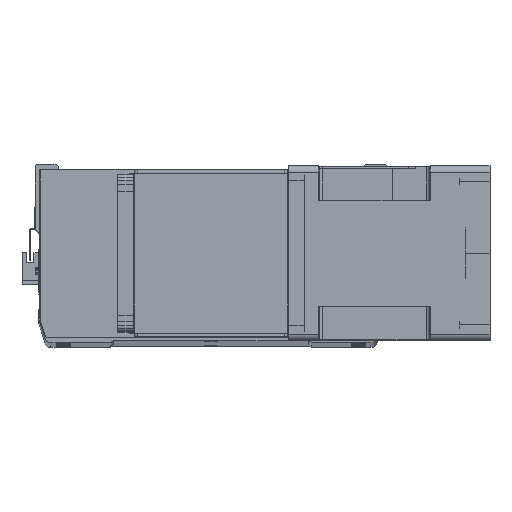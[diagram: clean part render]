
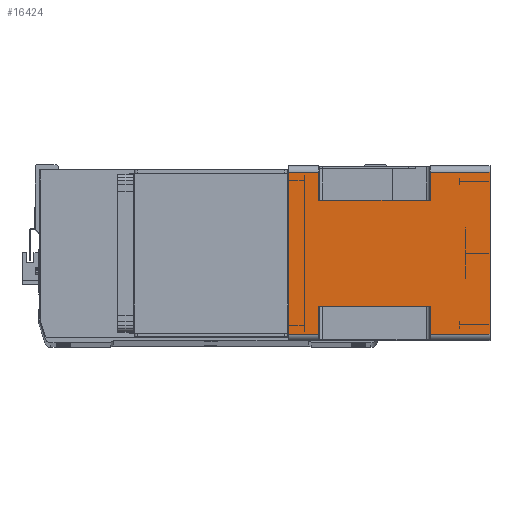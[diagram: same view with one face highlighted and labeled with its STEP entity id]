
A CAD part, top view. The second image highlights one B-rep face of the part: STEP entity #16424.
In plain terms, the highlighted planar face has unit normal (0, 0, 1) as drawn and (1, 0, 0) by its records, which use the part's own axes.
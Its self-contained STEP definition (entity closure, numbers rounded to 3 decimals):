
#415 = EDGE_CURVE ( 'NONE', #19082, #12880, #497, .T. ) ;
#444 = VECTOR ( 'NONE', #23070, 1000. ) ;
#497 = LINE ( 'NONE', #3743, #5690 ) ;
#509 = CARTESIAN_POINT ( 'NONE',  ( 71., 43., -115.5 ) ) ;
#592 = CARTESIAN_POINT ( 'NONE',  ( 71., -43., -24.5 ) ) ;
#616 = CARTESIAN_POINT ( 'NONE',  ( 71., -66., -24.5 ) ) ;
#742 = CARTESIAN_POINT ( 'NONE',  ( 71., -43., -164. ) ) ;
#1355 = VERTEX_POINT ( 'NONE', #509 ) ;
#1360 = CARTESIAN_POINT ( 'NONE',  ( 71., 66., -164. ) ) ;
#1418 = CARTESIAN_POINT ( 'NONE',  ( 71., -66., -164. ) ) ;
#1644 = DIRECTION ( 'NONE',  ( 0., 0., 1. ) ) ;
#1816 = VECTOR ( 'NONE', #29010, 1000. ) ;
#2215 = CARTESIAN_POINT ( 'NONE',  ( 71., 43., -115.5 ) ) ;
#2572 = DIRECTION ( 'NONE',  ( 0., 1., 0. ) ) ;
#2681 = LINE ( 'NONE', #24039, #8246 ) ;
#2930 = CARTESIAN_POINT ( 'NONE',  ( 71., 66., -115.5 ) ) ;
#3112 = VECTOR ( 'NONE', #28616, 1000. ) ;
#3743 = CARTESIAN_POINT ( 'NONE',  ( 71., 66., -164. ) ) ;
#3892 = DIRECTION ( 'NONE',  ( 0., 0., 1. ) ) ;
#3969 = ORIENTED_EDGE ( 'NONE', *, *, #28977, .F. ) ;
#4118 = CARTESIAN_POINT ( 'NONE',  ( 71., 43., -164. ) ) ;
#4167 = EDGE_CURVE ( 'NONE', #26629, #19082, #17726, .T. ) ;
#5535 = VECTOR ( 'NONE', #22823, 1000. ) ;
#5690 = VECTOR ( 'NONE', #16187, 1000. ) ;
#5703 = DIRECTION ( 'NONE',  ( 0., 1., 0. ) ) ;
#5929 = DIRECTION ( 'NONE',  ( 1., 0., 0. ) ) ;
#6008 = CARTESIAN_POINT ( 'NONE',  ( 71., 66., -24.5 ) ) ;
#6786 = CARTESIAN_POINT ( 'NONE',  ( 71., 66., -164. ) ) ;
#7448 = CARTESIAN_POINT ( 'NONE',  ( 71., 43., -24.5 ) ) ;
#8246 = VECTOR ( 'NONE', #3892, 1000. ) ;
#8362 = PLANE ( 'NONE',  #19748 ) ;
#9282 = ORIENTED_EDGE ( 'NONE', *, *, #13154, .T. ) ;
#9327 = DIRECTION ( 'NONE',  ( 0., 0., 1. ) ) ;
#9582 = EDGE_CURVE ( 'NONE', #26629, #1355, #14222, .T. ) ;
#9658 = EDGE_LOOP ( 'NONE', ( #3969, #21498, #19849, #12683, #25640, #9282, #29809, #33023, #23076, #21578, #14503, #28372 ) ) ;
#9839 = VECTOR ( 'NONE', #16418, 1000. ) ;
#10467 = EDGE_CURVE ( 'NONE', #12982, #32243, #31715, .T. ) ;
#10791 = CARTESIAN_POINT ( 'NONE',  ( 71., -66., -164. ) ) ;
#11152 = CARTESIAN_POINT ( 'NONE',  ( 71., -43., -24.5 ) ) ;
#11682 = CARTESIAN_POINT ( 'NONE',  ( 71., -66., -164. ) ) ;
#12546 = CARTESIAN_POINT ( 'NONE',  ( 71., -66., 0. ) ) ;
#12683 = ORIENTED_EDGE ( 'NONE', *, *, #23315, .T. ) ;
#12880 = VERTEX_POINT ( 'NONE', #26230 ) ;
#12982 = VERTEX_POINT ( 'NONE', #1360 ) ;
#13154 = EDGE_CURVE ( 'NONE', #32243, #1355, #14248, .T. ) ;
#13656 = CARTESIAN_POINT ( 'NONE',  ( 71., -66., -115.5 ) ) ;
#14222 = LINE ( 'NONE', #4118, #27408 ) ;
#14248 = LINE ( 'NONE', #2215, #5535 ) ;
#14503 = ORIENTED_EDGE ( 'NONE', *, *, #25868, .F. ) ;
#15280 = CARTESIAN_POINT ( 'NONE',  ( 71., -66., -164. ) ) ;
#15623 = LINE ( 'NONE', #12546, #21615 ) ;
#16187 = DIRECTION ( 'NONE',  ( 0., 0., 1. ) ) ;
#16418 = DIRECTION ( 'NONE',  ( 0., 1., 0. ) ) ;
#16424 = ADVANCED_FACE ( 'NONE', ( #25034 ), #8362, .T. ) ;
#16661 = VERTEX_POINT ( 'NONE', #11682 ) ;
#17726 = LINE ( 'NONE', #32768, #23699 ) ;
#18229 = LINE ( 'NONE', #11152, #9839 ) ;
#18529 = VECTOR ( 'NONE', #1644, 1000. ) ;
#19010 = CARTESIAN_POINT ( 'NONE',  ( 71., -43., -115.5 ) ) ;
#19082 = VERTEX_POINT ( 'NONE', #6008 ) ;
#19693 = EDGE_CURVE ( 'NONE', #31232, #28603, #18229, .T. ) ;
#19748 = AXIS2_PLACEMENT_3D ( 'NONE', #10791, #5929, #5703 ) ;
#19849 = ORIENTED_EDGE ( 'NONE', *, *, #24350, .F. ) ;
#20183 = VERTEX_POINT ( 'NONE', #19010 ) ;
#20551 = VECTOR ( 'NONE', #9327, 1000. ) ;
#20781 = LINE ( 'NONE', #15280, #444 ) ;
#20989 = CARTESIAN_POINT ( 'NONE',  ( 71., -66., 0. ) ) ;
#21498 = ORIENTED_EDGE ( 'NONE', *, *, #32771, .T. ) ;
#21578 = ORIENTED_EDGE ( 'NONE', *, *, #30358, .F. ) ;
#21615 = VECTOR ( 'NONE', #2572, 1000. ) ;
#21936 = DIRECTION ( 'NONE',  ( 0., 0., -1. ) ) ;
#22312 = DIRECTION ( 'NONE',  ( 0., 1., 0. ) ) ;
#22823 = DIRECTION ( 'NONE',  ( 0., -1., 0. ) ) ;
#22919 = LINE ( 'NONE', #1418, #18529 ) ;
#23070 = DIRECTION ( 'NONE',  ( 0., 1., 0. ) ) ;
#23076 = ORIENTED_EDGE ( 'NONE', *, *, #415, .T. ) ;
#23315 = EDGE_CURVE ( 'NONE', #16661, #12982, #20781, .T. ) ;
#23699 = VECTOR ( 'NONE', #22312, 1000. ) ;
#24039 = CARTESIAN_POINT ( 'NONE',  ( 71., -66., -164. ) ) ;
#24350 = EDGE_CURVE ( 'NONE', #16661, #29076, #2681, .T. ) ;
#24919 = LINE ( 'NONE', #26461, #1816 ) ;
#25034 = FACE_OUTER_BOUND ( 'NONE', #9658, .T. ) ;
#25640 = ORIENTED_EDGE ( 'NONE', *, *, #10467, .T. ) ;
#25868 = EDGE_CURVE ( 'NONE', #31232, #26358, #22919, .T. ) ;
#26230 = CARTESIAN_POINT ( 'NONE',  ( 71., 66., 0. ) ) ;
#26358 = VERTEX_POINT ( 'NONE', #20989 ) ;
#26461 = CARTESIAN_POINT ( 'NONE',  ( 71., -66., -115.5 ) ) ;
#26629 = VERTEX_POINT ( 'NONE', #7448 ) ;
#27408 = VECTOR ( 'NONE', #21936, 1000. ) ;
#28372 = ORIENTED_EDGE ( 'NONE', *, *, #19693, .T. ) ;
#28603 = VERTEX_POINT ( 'NONE', #592 ) ;
#28616 = DIRECTION ( 'NONE',  ( 0., 0., 1. ) ) ;
#28977 = EDGE_CURVE ( 'NONE', #20183, #28603, #32979, .T. ) ;
#29010 = DIRECTION ( 'NONE',  ( 0., -1., 0. ) ) ;
#29076 = VERTEX_POINT ( 'NONE', #13656 ) ;
#29809 = ORIENTED_EDGE ( 'NONE', *, *, #9582, .F. ) ;
#30358 = EDGE_CURVE ( 'NONE', #26358, #12880, #15623, .T. ) ;
#31232 = VERTEX_POINT ( 'NONE', #616 ) ;
#31715 = LINE ( 'NONE', #6786, #20551 ) ;
#32243 = VERTEX_POINT ( 'NONE', #2930 ) ;
#32768 = CARTESIAN_POINT ( 'NONE',  ( 71., -66., -24.5 ) ) ;
#32771 = EDGE_CURVE ( 'NONE', #20183, #29076, #24919, .T. ) ;
#32979 = LINE ( 'NONE', #742, #3112 ) ;
#33023 = ORIENTED_EDGE ( 'NONE', *, *, #4167, .T. ) ;
